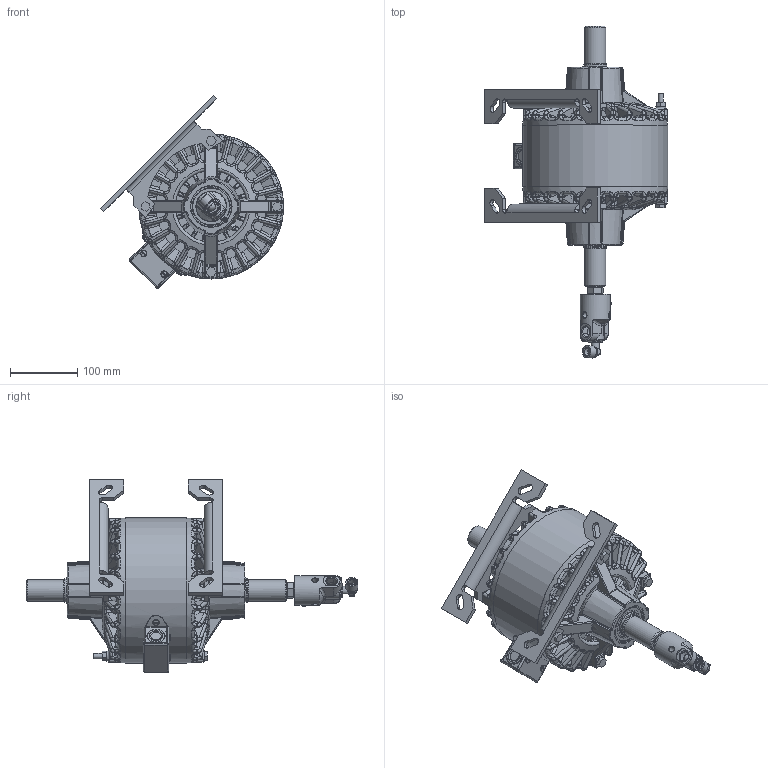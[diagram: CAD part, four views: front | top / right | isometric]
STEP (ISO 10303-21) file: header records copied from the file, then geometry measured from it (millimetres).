
FILE_DESCRIPTION(/* description */ ('STEP AP214'),/* implementation_level */ '2;1');
FILE_NAME(/* name */ '50MCW90B20_stp.step',/* time_stamp */ '2026-05-13T10:46:20-05:00',/* author */ (''),/* organization */ (''),/* preprocessor_version */ 'ST-DEVELOPER v20.1',/* originating_system */ 'Autodesk Translation Framework v15.8.0.0',/* authorisation */ '');
FILE_SCHEMA (('AUTOMOTIVE_DESIGN { 1 0 10303 214 3 1 1 }'));
Products named in the file (1): 50MCW90B20_asm_stp
Bounding box: 273.02 x 493.91 x 287.12 mm (x, y, z)
Volume: 3348884.6 mm3; surface area: 727429.2 mm2
Topology: 5 solids, 14 shells, 3362 faces, 8422 edges, 5034 vertices
Faces by surface type: bspline 1036, cylinder 870, plane 666, torus 407, cone 236, sphere 147
Full cylindrical faces by diameter (mm): 3.795 x4, 4.039 x4, 6.325 x1, 6.35 x7, 7.938 x8, 8.6 x3, 9.474 x4, 9.5 x1, 9.525 x8, 9.576 x8, 10.719 x1, 11.125 x1, 12 x1, 12.7 x1, 13.889 x1, 14.684 x2, 16.5 x1, 17.475 x2, 18 x1, 19.15 x1, 22.2 x1, 22.225 x3, 25.4 x1, 31.674 x1, 31.712 x1, 33.401 x4, 34.138 x2, 34.884 x4, 34.999 x2, 35 x1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
Entity records: 161629 total; most frequent: CARTESIAN_POINT 88103, ORIENTED_EDGE 16686, DIRECTION 14075, EDGE_CURVE 8343, AXIS2_PLACEMENT_3D 5944, VERTEX_POINT 5046, EDGE_LOOP 3571, CIRCLE 3466
